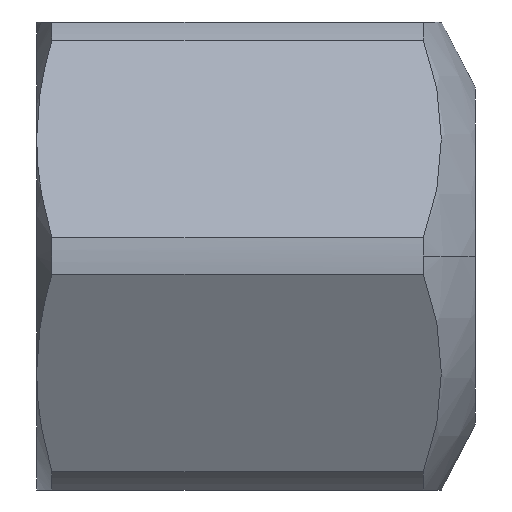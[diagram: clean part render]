
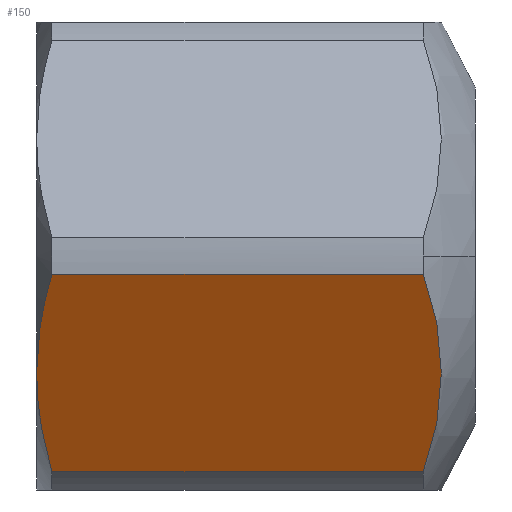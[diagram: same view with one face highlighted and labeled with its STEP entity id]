
A CAD part, left-side view. The second image highlights one B-rep face of the part: STEP entity #150.
In plain terms, the highlighted planar face has unit normal (-0.866, 0, -0.5).
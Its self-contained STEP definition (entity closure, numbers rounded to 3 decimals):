
#18 = CARTESIAN_POINT ( 'NONE',  ( -6.928, 13.854, -4. ) ) ;
#37 = AXIS2_PLACEMENT_3D ( 'NONE', #290, #520, #453 ) ;
#40 = CARTESIAN_POINT ( 'NONE',  ( -4.978, 14.48, -7.377 ) ) ;
#92 = B_SPLINE_CURVE_WITH_KNOTS ( 'NONE', 3,
 ( #303, #488, #830, #316, #764, #385 ),
 .UNSPECIFIED., .F., .F.,
 ( 4, 2, 4 ),
 ( 0.004, 0.006, 0.008 ),
 .UNSPECIFIED. ) ;
#93 = CARTESIAN_POINT ( 'NONE',  ( -8.878, 0., -0.623 ) ) ;
#150 = ADVANCED_FACE ( 'NONE', ( #463 ), #773, .T. ) ;
#155 = ORIENTED_EDGE ( 'NONE', *, *, #699, .F. ) ;
#173 = DIRECTION ( 'NONE',  ( 0., 1., 0. ) ) ;
#205 = LINE ( 'NONE', #93, #770 ) ;
#231 = ORIENTED_EDGE ( 'NONE', *, *, #476, .F. ) ;
#234 = LINE ( 'NONE', #291, #312 ) ;
#242 = EDGE_CURVE ( 'NONE', #594, #558, #205, .T. ) ;
#271 = VERTEX_POINT ( 'NONE', #671 ) ;
#284 = ORIENTED_EDGE ( 'NONE', *, *, #648, .F. ) ;
#290 = CARTESIAN_POINT ( 'NONE',  ( -4.619, 0., -8. ) ) ;
#291 = CARTESIAN_POINT ( 'NONE',  ( -4.978, 0., -7.377 ) ) ;
#303 = CARTESIAN_POINT ( 'NONE',  ( -6.928, 15., -4. ) ) ;
#309 = CARTESIAN_POINT ( 'NONE',  ( -6.928, 15., -4. ) ) ;
#312 = VECTOR ( 'NONE', #173, 1000. ) ;
#316 = CARTESIAN_POINT ( 'NONE',  ( -8.237, 14.773, -1.734 ) ) ;
#327 = DIRECTION ( 'NONE',  ( -0.5, 0., 0.866 ) ) ;
#343 = EDGE_LOOP ( 'NONE', ( #284, #710, #155, #231, #784 ) ) ;
#375 = CARTESIAN_POINT ( 'NONE',  ( -8.878, 14.48, -0.623 ) ) ;
#385 = CARTESIAN_POINT ( 'NONE',  ( -8.878, 14.48, -0.623 ) ) ;
#426 = VERTEX_POINT ( 'NONE', #40 ) ;
#441 = CARTESIAN_POINT ( 'NONE',  ( -4.978, 14.48, -7.377 ) ) ;
#453 = DIRECTION ( 'NONE',  ( -0.5, 0., 0.866 ) ) ;
#463 = FACE_OUTER_BOUND ( 'NONE', #343, .T. ) ;
#464 = VERTEX_POINT ( 'NONE', #309 ) ;
#476 = EDGE_CURVE ( 'NONE', #426, #464, #591, .T. ) ;
#488 = CARTESIAN_POINT ( 'NONE',  ( -7.255, 15., -3.433 ) ) ;
#510 = CARTESIAN_POINT ( 'NONE',  ( -8.878, 1.78, -0.623 ) ) ;
#520 = DIRECTION ( 'NONE',  ( -0.866, 0., -0.5 ) ) ;
#558 = VERTEX_POINT ( 'NONE', #510 ) ;
#591 = B_SPLINE_CURVE_WITH_KNOTS ( 'NONE', 3,
 ( #441, #832, #746, #693 ),
 .UNSPECIFIED., .F., .F.,
 ( 4, 4 ),
 ( 0., 0.004 ),
 .UNSPECIFIED. ) ;
#594 = VERTEX_POINT ( 'NONE', #375 ) ;
#648 = EDGE_CURVE ( 'NONE', #558, #271, #717, .T. ) ;
#654 = EDGE_CURVE ( 'NONE', #271, #426, #234, .T. ) ;
#671 = CARTESIAN_POINT ( 'NONE',  ( -4.978, 1.78, -7.377 ) ) ;
#693 = CARTESIAN_POINT ( 'NONE',  ( -6.928, 15., -4. ) ) ;
#699 = EDGE_CURVE ( 'NONE', #464, #594, #92, .T. ) ;
#710 = ORIENTED_EDGE ( 'NONE', *, *, #242, .F. ) ;
#717 = CIRCLE ( 'NONE', #767, 12.689 ) ;
#746 = CARTESIAN_POINT ( 'NONE',  ( -6.269, 15., -5.141 ) ) ;
#764 = CARTESIAN_POINT ( 'NONE',  ( -8.559, 14.642, -1.176 ) ) ;
#767 = AXIS2_PLACEMENT_3D ( 'NONE', #18, #786, #327 ) ;
#770 = VECTOR ( 'NONE', #800, 1000. ) ;
#773 = PLANE ( 'NONE',  #37 ) ;
#784 = ORIENTED_EDGE ( 'NONE', *, *, #654, .F. ) ;
#786 = DIRECTION ( 'NONE',  ( 0.866, 0., 0.5 ) ) ;
#800 = DIRECTION ( 'NONE',  ( 0., -1., 0. ) ) ;
#830 = CARTESIAN_POINT ( 'NONE',  ( -7.586, 14.952, -2.861 ) ) ;
#832 = CARTESIAN_POINT ( 'NONE',  ( -5.62, 14.805, -6.265 ) ) ;
